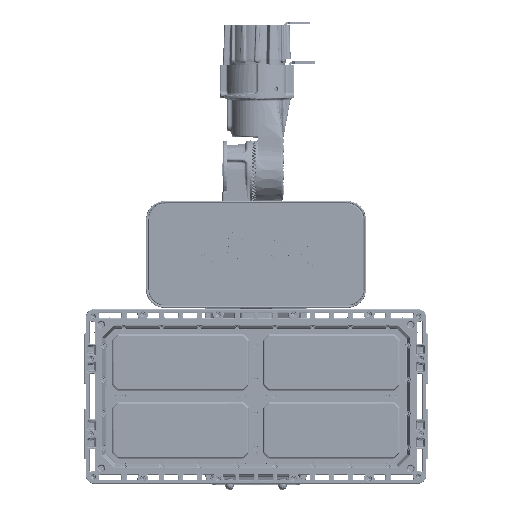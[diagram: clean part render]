
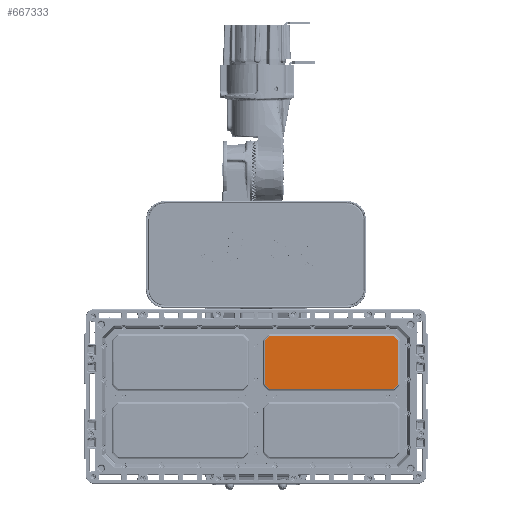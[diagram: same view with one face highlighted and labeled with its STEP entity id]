
A CAD part, front view. The second image highlights one B-rep face of the part: STEP entity #667333.
In plain terms, the highlighted planar face has unit normal (0, -1, 0) as drawn and (0, 1, 0) by its records, which use the part's own axes.
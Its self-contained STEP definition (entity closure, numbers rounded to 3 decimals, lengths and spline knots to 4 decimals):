
#648292=CARTESIAN_POINT('',(3.2701,0.433,
1.3993));
#648293=CARTESIAN_POINT('',(3.2758,0.433,
1.3992));
#648294=CARTESIAN_POINT('',(3.2869,0.433,
1.3977));
#648295=CARTESIAN_POINT('',(3.3028,0.433,
1.3912));
#648296=CARTESIAN_POINT('',(3.3117,0.433,
1.3843));
#648297=CARTESIAN_POINT('',(3.3159,0.433,
1.3802));
#648309=CARTESIAN_POINT('',(-3.2701,0.433,
1.3992));
#648311=CARTESIAN_POINT('',(3.2701,0.433,
1.3993));
#648355=CARTESIAN_POINT('',(-3.316,0.433,
1.3803));
#648356=CARTESIAN_POINT('',(-3.3119,0.433,
1.3843));
#648357=CARTESIAN_POINT('',(-3.303,0.433,
1.391));
#648358=CARTESIAN_POINT('',(-3.2871,0.433,
1.3977));
#648359=CARTESIAN_POINT('',(-3.2759,0.433,
1.3992));
#648360=CARTESIAN_POINT('',(-3.2701,0.433,
1.3992));
#648371=CARTESIAN_POINT('',(-3.316,0.433,
1.3803));
#648411=CARTESIAN_POINT('',(-3.5323,0.433,
1.1371));
#648412=CARTESIAN_POINT('',(-3.5322,0.433,
1.1428));
#648413=CARTESIAN_POINT('',(-3.5307,0.433,
1.1539));
#648414=CARTESIAN_POINT('',(-3.5242,0.433,
1.1698));
#648415=CARTESIAN_POINT('',(-3.5173,0.433,
1.1787));
#648416=CARTESIAN_POINT('',(-3.5132,0.433,
1.1829));
#648428=CARTESIAN_POINT('',(-3.5322,0.433,
-1.1371));
#648430=CARTESIAN_POINT('',(-3.5323,0.433,
1.1371));
#648474=CARTESIAN_POINT('',(-3.5133,0.433,
-1.183));
#648475=CARTESIAN_POINT('',(-3.5173,0.433,
-1.1789));
#648476=CARTESIAN_POINT('',(-3.524,0.433,
-1.17));
#648477=CARTESIAN_POINT('',(-3.5307,0.433,
-1.1541));
#648478=CARTESIAN_POINT('',(-3.5322,0.433,
-1.1429));
#648479=CARTESIAN_POINT('',(-3.5322,0.433,
-1.1371));
#648486=CARTESIAN_POINT('',(-3.5133,0.433,
-1.183));
#648534=CARTESIAN_POINT('',(-3.2701,0.433,
-1.3993));
#648535=CARTESIAN_POINT('',(-3.2758,0.433,
-1.3992));
#648536=CARTESIAN_POINT('',(-3.2869,0.433,
-1.3977));
#648537=CARTESIAN_POINT('',(-3.3028,0.433,
-1.3912));
#648538=CARTESIAN_POINT('',(-3.3117,0.433,
-1.3843));
#648539=CARTESIAN_POINT('',(-3.3159,0.433,
-1.3802));
#648545=CARTESIAN_POINT('',(-3.2701,0.433,
-1.3993));
#648596=CARTESIAN_POINT('',(3.316,0.433,
-1.3803));
#648598=CARTESIAN_POINT('',(3.316,0.433,
-1.3803));
#648599=CARTESIAN_POINT('',(3.3119,0.433,
-1.3843));
#648600=CARTESIAN_POINT('',(3.303,0.433,
-1.391));
#648601=CARTESIAN_POINT('',(3.2871,0.433,
-1.3977));
#648602=CARTESIAN_POINT('',(3.2759,0.433,
-1.3992));
#648603=CARTESIAN_POINT('',(3.2701,0.433,
-1.3992));
#648654=CARTESIAN_POINT('',(3.5323,0.433,
-1.1371));
#648655=CARTESIAN_POINT('',(3.5322,0.433,
-1.1428));
#648656=CARTESIAN_POINT('',(3.5307,0.433,
-1.1539));
#648657=CARTESIAN_POINT('',(3.5242,0.433,
-1.1698));
#648658=CARTESIAN_POINT('',(3.5173,0.433,
-1.1787));
#648659=CARTESIAN_POINT('',(3.5132,0.433,
-1.1829));
#648671=CARTESIAN_POINT('',(3.5322,0.433,
1.1371));
#648673=CARTESIAN_POINT('',(3.5323,0.433,
-1.1371));
#648717=CARTESIAN_POINT('',(3.5133,0.433,
1.183));
#648718=CARTESIAN_POINT('',(3.5173,0.433,
1.1789));
#648719=CARTESIAN_POINT('',(3.524,0.433,
1.17));
#648720=CARTESIAN_POINT('',(3.5307,0.433,
1.1541));
#648721=CARTESIAN_POINT('',(3.5322,0.433,
1.1429));
#648722=CARTESIAN_POINT('',(3.5322,0.433,
1.1371));
#648733=CARTESIAN_POINT('',(3.5133,0.433,
1.183));
#648750=DIRECTION('',(-0.707,0.,-0.707));
#648751=VECTOR('',#648750,0.279);
#648752=CARTESIAN_POINT('',(-3.316,0.433,
1.3803));
#648753=LINE('',#648752,#648751);
#648754=DIRECTION('',(0.,0.,-1.));
#648755=VECTOR('',#648754,2.2742);
#648756=CARTESIAN_POINT('',(-3.5323,0.433,
1.1371));
#648757=LINE('',#648756,#648755);
#648758=DIRECTION('',(0.707,0.,-0.707));
#648759=VECTOR('',#648758,0.279);
#648760=CARTESIAN_POINT('',(-3.5133,0.433,
-1.183));
#648761=LINE('',#648760,#648759);
#648762=DIRECTION('',(1.,0.,0.));
#648763=VECTOR('',#648762,6.5402);
#648764=CARTESIAN_POINT('',(-3.2701,0.433,
-1.3993));
#648765=LINE('',#648764,#648763);
#648766=DIRECTION('',(0.707,0.,0.707));
#648767=VECTOR('',#648766,0.279);
#648768=CARTESIAN_POINT('',(3.316,0.433,
-1.3803));
#648769=LINE('',#648768,#648767);
#648770=DIRECTION('',(0.,0.,1.));
#648771=VECTOR('',#648770,2.2742);
#648772=CARTESIAN_POINT('',(3.5323,0.433,
-1.1371));
#648773=LINE('',#648772,#648771);
#648774=DIRECTION('',(-0.707,0.,0.707));
#648775=VECTOR('',#648774,0.279);
#648776=CARTESIAN_POINT('',(3.5133,0.433,
1.183));
#648777=LINE('',#648776,#648775);
#648778=DIRECTION('',(-1.,0.,0.));
#648779=VECTOR('',#648778,6.5402);
#648780=CARTESIAN_POINT('',(3.2701,0.433,
1.3993));
#648781=LINE('',#648780,#648779);
#656030=VERTEX_POINT('',#648311);
#656031=VERTEX_POINT('',#648297);
#656034=VERTEX_POINT('',#648309);
#656037=VERTEX_POINT('',#648371);
#656040=CARTESIAN_POINT('',(-3.5132,0.433,
1.1829));
#656041=VERTEX_POINT('',#656040);
#656044=VERTEX_POINT('',#648430);
#656047=VERTEX_POINT('',#648428);
#656050=VERTEX_POINT('',#648486);
#656053=CARTESIAN_POINT('',(-3.3159,0.433,
-1.3802));
#656054=VERTEX_POINT('',#656053);
#656057=VERTEX_POINT('',#648545);
#656060=CARTESIAN_POINT('',(3.2701,0.433,
-1.3992));
#656061=VERTEX_POINT('',#656060);
#656064=VERTEX_POINT('',#648596);
#656067=CARTESIAN_POINT('',(3.5132,0.433,
-1.1829));
#656068=VERTEX_POINT('',#656067);
#656071=VERTEX_POINT('',#648673);
#656074=VERTEX_POINT('',#648671);
#656077=VERTEX_POINT('',#648733);
#667310=CARTESIAN_POINT('',(-3.,0.433,-0.867));
#667311=DIRECTION('',(0.,1.,0.));
#667312=DIRECTION('',(1.,0.,0.));
#667313=AXIS2_PLACEMENT_3D('',#667310,#667311,#667312);
#667314=PLANE('',#667313);
#667315=ORIENTED_EDGE('',*,*,#666924,.F.);
#667316=ORIENTED_EDGE('',*,*,#666939,.T.);
#667317=ORIENTED_EDGE('',*,*,#666983,.F.);
#667318=ORIENTED_EDGE('',*,*,#666998,.T.);
#667319=ORIENTED_EDGE('',*,*,#667042,.F.);
#667320=ORIENTED_EDGE('',*,*,#667057,.T.);
#667321=ORIENTED_EDGE('',*,*,#667101,.F.);
#667322=ORIENTED_EDGE('',*,*,#667116,.T.);
#667323=ORIENTED_EDGE('',*,*,#667160,.F.);
#667324=ORIENTED_EDGE('',*,*,#667175,.T.);
#667325=ORIENTED_EDGE('',*,*,#667219,.F.);
#667326=ORIENTED_EDGE('',*,*,#667234,.T.);
#667327=ORIENTED_EDGE('',*,*,#667278,.F.);
#667328=ORIENTED_EDGE('',*,*,#667292,.T.);
#667329=ORIENTED_EDGE('',*,*,#666864,.F.);
#667330=ORIENTED_EDGE('',*,*,#666880,.T.);
#667331=EDGE_LOOP('',(#667315,#667316,#667317,#667318,#667319,#667320,#667321,
#667322,#667323,#667324,#667325,#667326,#667327,#667328,#667329,#667330));
#667332=FACE_OUTER_BOUND('',#667331,.F.);
#667333=ADVANCED_FACE('',(#667332),#667314,.T.);
#648298=B_SPLINE_CURVE_WITH_KNOTS('',3,(#648292,#648293,#648294,#648295,#648296,
#648297),.UNSPECIFIED.,.F.,.F.,(4,1,1,4),(0.,0.3333,
0.6667,1.),.UNSPECIFIED.);
#648361=B_SPLINE_CURVE_WITH_KNOTS('',3,(#648355,#648356,#648357,#648358,#648359,
#648360),.UNSPECIFIED.,.F.,.F.,(4,1,1,4),(0.,0.3333,
0.6667,1.),.UNSPECIFIED.);
#648417=B_SPLINE_CURVE_WITH_KNOTS('',3,(#648411,#648412,#648413,#648414,#648415,
#648416),.UNSPECIFIED.,.F.,.F.,(4,1,1,4),(0.,0.3333,
0.6667,1.),.UNSPECIFIED.);
#648480=B_SPLINE_CURVE_WITH_KNOTS('',3,(#648474,#648475,#648476,#648477,#648478,
#648479),.UNSPECIFIED.,.F.,.F.,(4,1,1,4),(0.,0.3333,
0.6667,1.),.UNSPECIFIED.);
#648540=B_SPLINE_CURVE_WITH_KNOTS('',3,(#648534,#648535,#648536,#648537,#648538,
#648539),.UNSPECIFIED.,.F.,.F.,(4,1,1,4),(0.,0.3333,
0.6667,1.),.UNSPECIFIED.);
#648604=B_SPLINE_CURVE_WITH_KNOTS('',3,(#648598,#648599,#648600,#648601,#648602,
#648603),.UNSPECIFIED.,.F.,.F.,(4,1,1,4),(0.,0.3333,
0.6667,1.),.UNSPECIFIED.);
#648660=B_SPLINE_CURVE_WITH_KNOTS('',3,(#648654,#648655,#648656,#648657,#648658,
#648659),.UNSPECIFIED.,.F.,.F.,(4,1,1,4),(0.,0.3333,
0.6667,1.),.UNSPECIFIED.);
#648723=B_SPLINE_CURVE_WITH_KNOTS('',3,(#648717,#648718,#648719,#648720,#648721,
#648722),.UNSPECIFIED.,.F.,.F.,(4,1,1,4),(0.,0.3333,
0.6667,1.),.UNSPECIFIED.);
#666864=EDGE_CURVE('',#656030,#656031,#648298,.T.);
#666880=EDGE_CURVE('',#656030,#656034,#648781,.T.);
#666924=EDGE_CURVE('',#656037,#656034,#648361,.T.);
#666939=EDGE_CURVE('',#656037,#656041,#648753,.T.);
#666983=EDGE_CURVE('',#656044,#656041,#648417,.T.);
#666998=EDGE_CURVE('',#656044,#656047,#648757,.T.);
#667042=EDGE_CURVE('',#656050,#656047,#648480,.T.);
#667057=EDGE_CURVE('',#656050,#656054,#648761,.T.);
#667101=EDGE_CURVE('',#656057,#656054,#648540,.T.);
#667116=EDGE_CURVE('',#656057,#656061,#648765,.T.);
#667160=EDGE_CURVE('',#656064,#656061,#648604,.T.);
#667175=EDGE_CURVE('',#656064,#656068,#648769,.T.);
#667219=EDGE_CURVE('',#656071,#656068,#648660,.T.);
#667234=EDGE_CURVE('',#656071,#656074,#648773,.T.);
#667278=EDGE_CURVE('',#656077,#656074,#648723,.T.);
#667292=EDGE_CURVE('',#656077,#656031,#648777,.T.);
